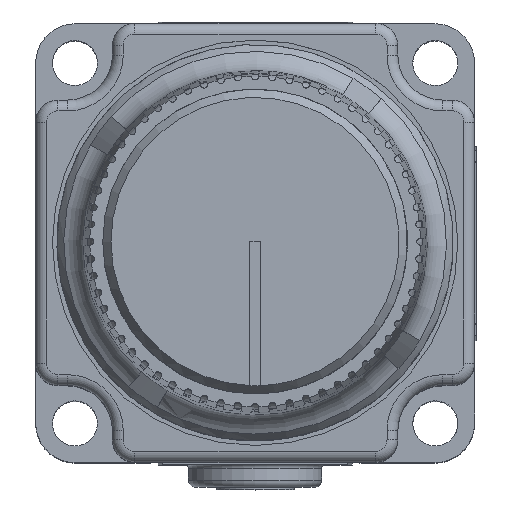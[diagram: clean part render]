
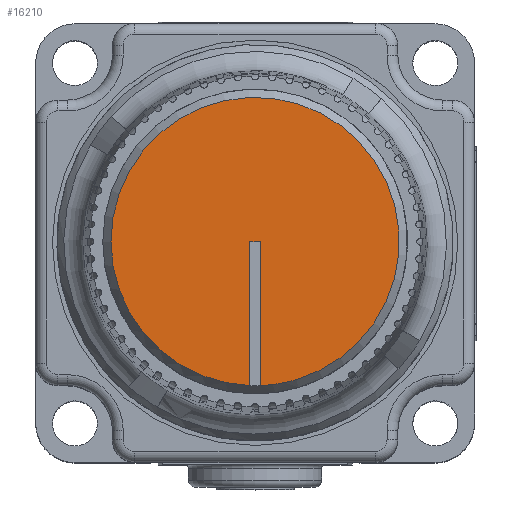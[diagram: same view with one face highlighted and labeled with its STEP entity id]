
A CAD part, top view. The second image highlights one B-rep face of the part: STEP entity #16210.
In plain terms, the highlighted planar face has unit normal (0, 0, 1).
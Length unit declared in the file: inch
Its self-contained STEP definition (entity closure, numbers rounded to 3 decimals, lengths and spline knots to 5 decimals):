
#767=PLANE('',#17717);
#1439=FACE_OUTER_BOUND('',#2380,.T.);
#2380=EDGE_LOOP('',(#12264,#12265,#12266,#12267,#12268));
#3269=CIRCLE('',#17718,0.4);
#3270=CIRCLE('',#17719,0.4);
#4381=LINE('',#26952,#5522);
#4382=LINE('',#26958,#5523);
#4383=LINE('',#26959,#5524);
#5522=VECTOR('',#21325,0.3937);
#5523=VECTOR('',#21330,0.3937);
#5524=VECTOR('',#21331,0.3937);
#6832=VERTEX_POINT('',#26950);
#6833=VERTEX_POINT('',#26951);
#6834=VERTEX_POINT('',#26953);
#6835=VERTEX_POINT('',#26955);
#6836=VERTEX_POINT('',#26957);
#8766=EDGE_CURVE('',#6832,#6833,#4381,.T.);
#8767=EDGE_CURVE('',#6833,#6834,#3269,.T.);
#8768=EDGE_CURVE('',#6834,#6835,#3270,.T.);
#8769=EDGE_CURVE('',#6835,#6836,#4382,.T.);
#8770=EDGE_CURVE('',#6836,#6832,#4383,.T.);
#12264=ORIENTED_EDGE('',*,*,#8766,.T.);
#12265=ORIENTED_EDGE('',*,*,#8767,.T.);
#12266=ORIENTED_EDGE('',*,*,#8768,.T.);
#12267=ORIENTED_EDGE('',*,*,#8769,.T.);
#12268=ORIENTED_EDGE('',*,*,#8770,.T.);
#16210=ADVANCED_FACE('',(#1439),#767,.T.);
#17717=AXIS2_PLACEMENT_3D('',#26949,#21323,#21324);
#17718=AXIS2_PLACEMENT_3D('',#26954,#21326,#21327);
#17719=AXIS2_PLACEMENT_3D('',#26956,#21328,#21329);
#21323=DIRECTION('center_axis',(0.,0.,1.));
#21324=DIRECTION('ref_axis',(1.,0.,0.));
#21325=DIRECTION('',(0.,-1.,0.));
#21326=DIRECTION('center_axis',(0.,0.,
1.));
#21327=DIRECTION('ref_axis',(0.325,0.946,0.));
#21328=DIRECTION('center_axis',(0.,0.,
1.));
#21329=DIRECTION('ref_axis',(0.325,0.946,0.));
#21330=DIRECTION('',(0.,1.,0.));
#21331=DIRECTION('',(1.,0.,0.));
#26949=CARTESIAN_POINT('Origin',(-0.34237,0.54304,1.82563));
#26950=CARTESIAN_POINT('',(-0.32737,0.94315,1.82563));
#26951=CARTESIAN_POINT('',(-0.32737,0.54343,1.82563));
#26952=CARTESIAN_POINT('',(-0.32737,0.94315,1.82563));
#26953=CARTESIAN_POINT('',(-0.22819,0.55979,1.82563));
#26954=CARTESIAN_POINT('Origin',(-0.34237,0.94315,1.82563));
#26955=CARTESIAN_POINT('',(-0.35737,0.54343,1.82563));
#26956=CARTESIAN_POINT('Origin',(-0.34237,0.94315,1.82563));
#26957=CARTESIAN_POINT('',(-0.35737,0.94315,1.82563));
#26958=CARTESIAN_POINT('',(-0.35737,0.54343,1.82563));
#26959=CARTESIAN_POINT('',(-0.35737,0.94315,1.82563));
